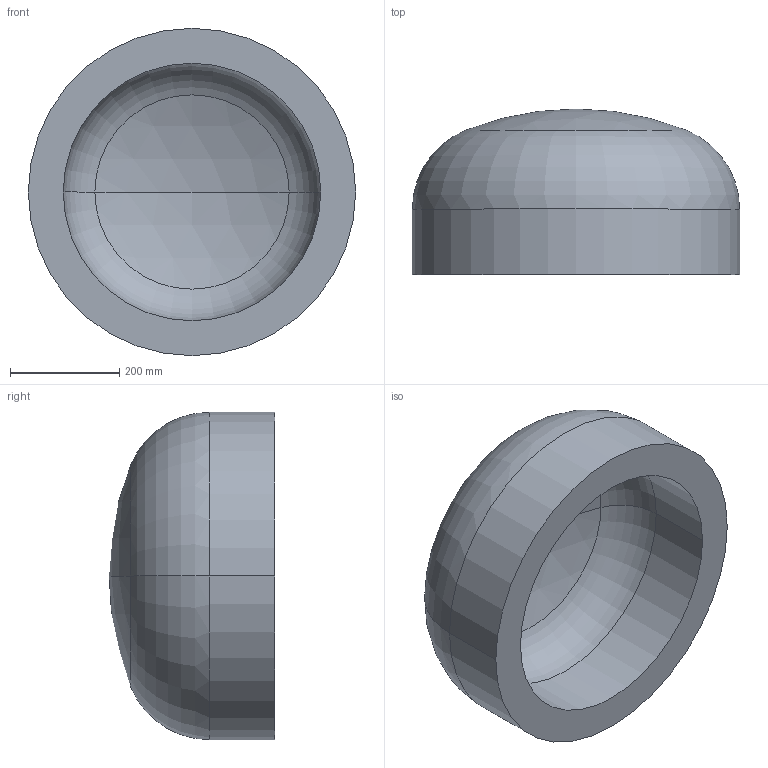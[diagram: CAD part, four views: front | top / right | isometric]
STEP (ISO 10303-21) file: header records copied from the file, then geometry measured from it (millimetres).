
FILE_DESCRIPTION (( 'STEP AP203' ), '1' );
FILE_NAME ('DIN 28013 Korbbogenform_-_Boden DIN 28013 - 600 x 120 - I - s=64.step', '2016-07-01T08:02:18', ( '' ), ( '' ), 'SwSTEP 2.0', 'SolidWorks 2013', '' );
FILE_SCHEMA (( 'CONFIG_CONTROL_DESIGN' ));
Length unit declared in the file: millimetre
Products named in the file (1): DIN 28013 Korbbogenform_-_Boden DIN 28013 - 600 x 120 - I - s=64
Bounding box: 600 x 303.71 x 600 mm (x, y, z)
Volume: 34888433.3 mm3; surface area: 1206611.3 mm2
Topology: 1 solids, 1 shells, 13 faces, 24 edges, 14 vertices
Faces by surface type: torus 4, cylinder 4, sphere 4, plane 1
Entity records: 407 total; most frequent: DIRECTION 72, CARTESIAN_POINT 52, ORIENTED_EDGE 48, AXIS2_PLACEMENT_3D 34, EDGE_CURVE 24, CIRCLE 20, VERTEX_POINT 14, EDGE_LOOP 14
